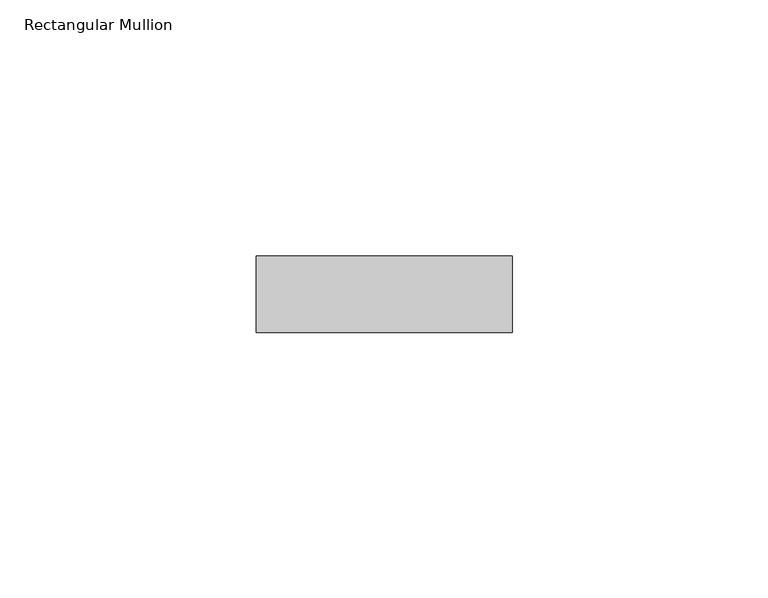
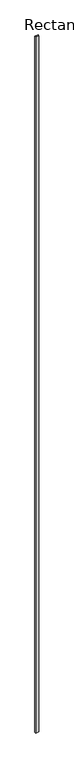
"""IFC4 building model written with IfcOpenShell, lengths in millimetres: member geometry, Rectangular Mullion : Ripa."""

from ifc_helpers import new_model, si_unit, frame, origin, place, context, project, spatial, polyline, outline, extrude, source, transform, mapped, element, save


def rectangular_mullion_b8d70239(model_context):
    return source(origin(), model_context, "Body", "SweptSolid", [
        extrude(outline(polyline([(0.0, -75.0), (-50.0, -75.0), (-50.0, -60.0), (0.0, -60.0), (0.0, -75.0)])), frame((0.0, 0.0, -10660.1380994), z_axis=(0.0, 0.0, 1.0), x_axis=(1.0, 0.0, 0.0)), (0.0, 0.0, 1.0), 10660.1380994),
    ])


if __name__ == "__main__":
    model = new_model("IFC4")
    model_context = context("Model", 3, world=origin())
    ifc_project = project(units=[si_unit("LENGTHUNIT", "METRE", prefix="MILLI")], contexts=[model_context])
    site = spatial("IfcSite", under=ifc_project)
    building = spatial("IfcBuilding", under=site)
    placement = place(None, origin())
    rectangular_mullion_shape = rectangular_mullion_b8d70239(model_context)
    element("IfcMember", 1, ObjectType="Rectangular Mullion : Ripa", at=placement, inside=building, context=model_context, shape_type="MappedRepresentation", body=[
        mapped(rectangular_mullion_shape, transform((0.0, 0.0, 0.0), x_axis=(1.0, 0.0, 0.0), y_axis=(0.0, 1.0, 0.0), z_axis=(0.0, 0.0, 1.0))),
    ])
    save(model, "model.ifc")
